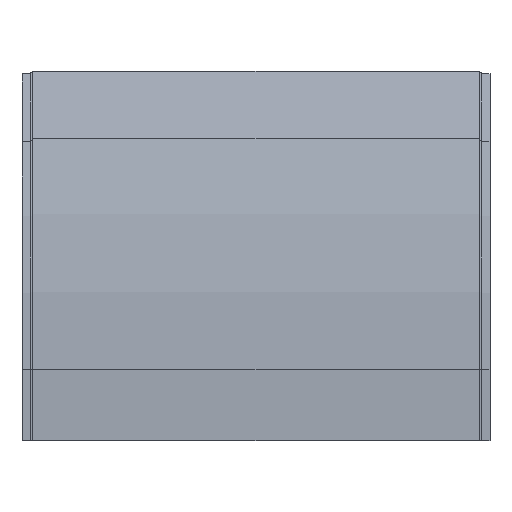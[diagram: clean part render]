
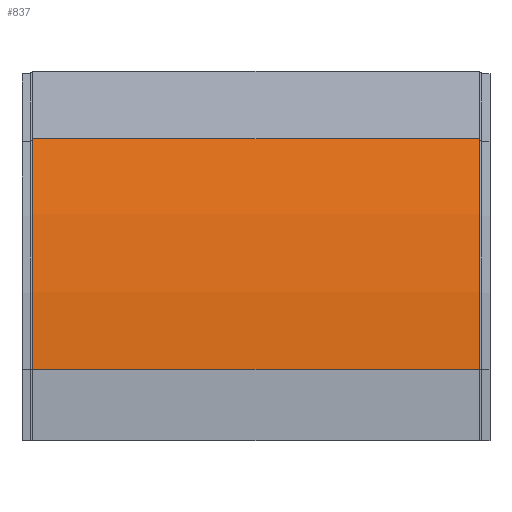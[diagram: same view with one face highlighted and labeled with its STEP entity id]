
A CAD part, front view. The second image highlights one B-rep face of the part: STEP entity #837.
In plain terms, the highlighted cylindrical face has radius 568.25 mm (diameter 1136.5 mm), a partial arc.
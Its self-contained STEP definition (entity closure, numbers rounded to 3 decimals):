
#13 = CARTESIAN_POINT ( 'NONE',  ( -165.1, -68.25, 52.5 ) ) ;
#33 = EDGE_CURVE ( 'NONE', #1043, #467, #1018, .T. ) ;
#42 = ORIENTED_EDGE ( 'NONE', *, *, #1080, .T. ) ;
#69 = ORIENTED_EDGE ( 'NONE', *, *, #278, .F. ) ;
#99 = CYLINDRICAL_SURFACE ( 'NONE', #601, 568.25 ) ;
#105 = DIRECTION ( 'NONE',  ( 0., 0., 1. ) ) ;
#186 = DIRECTION ( 'NONE',  ( 0., 0., 1. ) ) ;
#206 = DIRECTION ( 'NONE',  ( 1., 0., 0. ) ) ;
#258 = LINE ( 'NONE', #13, #762 ) ;
#278 = EDGE_CURVE ( 'NONE', #1009, #1043, #615, .T. ) ;
#330 = VERTEX_POINT ( 'NONE', #653 ) ;
#467 = VERTEX_POINT ( 'NONE', #1309 ) ;
#521 = DIRECTION ( 'NONE',  ( -1., 0., 0. ) ) ;
#559 = CARTESIAN_POINT ( 'NONE',  ( -165.1, -41.95, 223.376 ) ) ;
#601 = AXIS2_PLACEMENT_3D ( 'NONE', #1056, #521, #1159 ) ;
#615 = CIRCLE ( 'NONE', #1386, 568.25 ) ;
#653 = CARTESIAN_POINT ( 'NONE',  ( 165.1, -68.25, 52.5 ) ) ;
#762 = VECTOR ( 'NONE', #206, 1000. ) ;
#823 = CIRCLE ( 'NONE', #1077, 568.25 ) ;
#837 = ADVANCED_FACE ( 'NONE', ( #861 ), #99, .T. ) ;
#841 = DIRECTION ( 'NONE',  ( -1., 0., 0. ) ) ;
#861 = FACE_OUTER_BOUND ( 'NONE', #872, .T. ) ;
#872 = EDGE_LOOP ( 'NONE', ( #42, #1195, #1156, #69 ) ) ;
#932 = CARTESIAN_POINT ( 'NONE',  ( -165.1, -41.95, 223.376 ) ) ;
#955 = CARTESIAN_POINT ( 'NONE',  ( -165.1, -68.25, 52.5 ) ) ;
#961 = DIRECTION ( 'NONE',  ( -1., 0., 0. ) ) ;
#1009 = VERTEX_POINT ( 'NONE', #955 ) ;
#1018 = LINE ( 'NONE', #932, #1268 ) ;
#1043 = VERTEX_POINT ( 'NONE', #559 ) ;
#1056 = CARTESIAN_POINT ( 'NONE',  ( 0., 500., 52.5 ) ) ;
#1077 = AXIS2_PLACEMENT_3D ( 'NONE', #1300, #961, #105 ) ;
#1080 = EDGE_CURVE ( 'NONE', #1009, #330, #258, .T. ) ;
#1140 = DIRECTION ( 'NONE',  ( 1., 0., 0. ) ) ;
#1156 = ORIENTED_EDGE ( 'NONE', *, *, #33, .F. ) ;
#1159 = DIRECTION ( 'NONE',  ( 0., 0., 1. ) ) ;
#1195 = ORIENTED_EDGE ( 'NONE', *, *, #1229, .T. ) ;
#1229 = EDGE_CURVE ( 'NONE', #330, #467, #823, .T. ) ;
#1265 = CARTESIAN_POINT ( 'NONE',  ( -165.1, 500., 52.5 ) ) ;
#1268 = VECTOR ( 'NONE', #1140, 1000. ) ;
#1300 = CARTESIAN_POINT ( 'NONE',  ( 165.1, 500., 52.5 ) ) ;
#1309 = CARTESIAN_POINT ( 'NONE',  ( 165.1, -41.95, 223.376 ) ) ;
#1386 = AXIS2_PLACEMENT_3D ( 'NONE', #1265, #841, #186 ) ;
